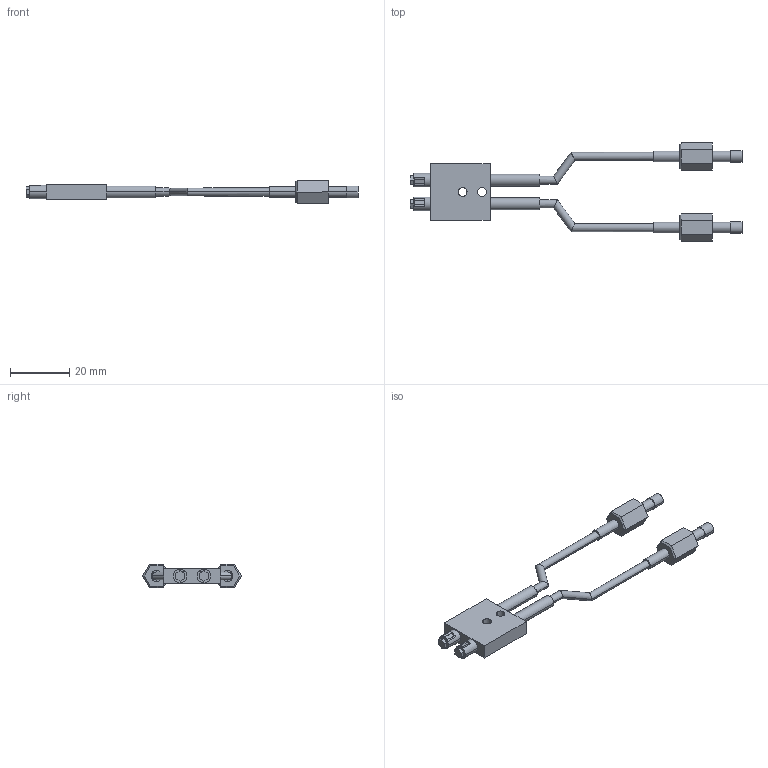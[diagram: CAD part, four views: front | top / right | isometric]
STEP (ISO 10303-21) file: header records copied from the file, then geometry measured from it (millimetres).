
FILE_DESCRIPTION (( 'STEP AP203' ), '1' );
FILE_NAME ('FD-H30-L32V.STEP', '2005-09-04T09:44:27', ( '川島良英' ), ( ' ' ), 'SwSTEP 2.0', 'SolidWorks 2004251', '' );
FILE_SCHEMA (( 'CONFIG_CONTROL_DESIGN' ));
Length unit declared in the file: millimetre
Products named in the file (1): FD-H30-L32V
Bounding box: 112 x 33.24 x 8 mm (x, y, z)
Volume: 4384.9 mm3; surface area: 4390.6 mm2
Topology: 5 solids, 5 shells, 116 faces, 256 edges, 164 vertices
Faces by surface type: plane 76, cylinder 40
Entity records: 3253 total; most frequent: CARTESIAN_POINT 561, DIRECTION 550, ORIENTED_EDGE 512, EDGE_CURVE 256, AXIS2_PLACEMENT_3D 185, VECTOR 180, LINE 180, VERTEX_POINT 164
